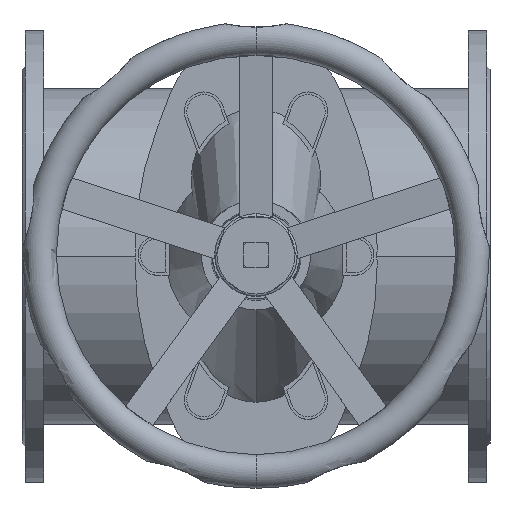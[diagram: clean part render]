
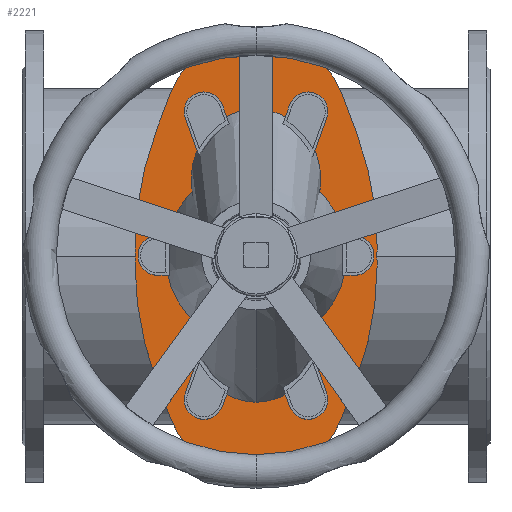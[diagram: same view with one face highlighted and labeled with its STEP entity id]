
A CAD part, top view. The second image highlights one B-rep face of the part: STEP entity #2221.
In plain terms, the highlighted planar face has unit normal (0, 0, 1).
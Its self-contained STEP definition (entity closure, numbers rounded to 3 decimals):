
#2221=ADVANCED_FACE('',(#4247),#4248,.T.);
#4247=FACE_OUTER_BOUND('',#6508,.T.);
#4248=PLANE('',#6509);
#6508=EDGE_LOOP('',(#11169,#11170,#11171,#11172,#11173,#11174,#11175,#11176,#11177,#11178,#11179,#11180,#11181,#11182));
#6509=AXIS2_PLACEMENT_3D('',#11183,#11184,#11185);
#11169=ORIENTED_EDGE('',*,*,#13937,.F.);
#11170=ORIENTED_EDGE('',*,*,#13938,.F.);
#11171=ORIENTED_EDGE('',*,*,#12906,.F.);
#11172=ORIENTED_EDGE('',*,*,#13790,.F.);
#11173=ORIENTED_EDGE('',*,*,#13463,.F.);
#11174=ORIENTED_EDGE('',*,*,#12697,.F.);
#11175=ORIENTED_EDGE('',*,*,#12717,.F.);
#11176=ORIENTED_EDGE('',*,*,#13443,.F.);
#11177=ORIENTED_EDGE('',*,*,#13895,.F.);
#11178=ORIENTED_EDGE('',*,*,#13614,.F.);
#11179=ORIENTED_EDGE('',*,*,#12157,.F.);
#11180=ORIENTED_EDGE('',*,*,#13671,.F.);
#11181=ORIENTED_EDGE('',*,*,#12049,.F.);
#11182=ORIENTED_EDGE('',*,*,#12996,.F.);
#11183=CARTESIAN_POINT('',(300.078,0.,504.0));
#11184=DIRECTION('',(0.0,0.0,1.0));
#11185=DIRECTION('',(1.0,0.0,0.0));
#12049=EDGE_CURVE('',#14094,#14097,#14098,.T.);
#12157=EDGE_CURVE('',#14287,#14290,#14291,.T.);
#12697=EDGE_CURVE('',#15204,#15206,#15207,.T.);
#12717=EDGE_CURVE('',#15230,#15204,#15232,.T.);
#12906=EDGE_CURVE('',#15539,#15540,#15541,.T.);
#12996=EDGE_CURVE('',#15678,#14094,#15680,.T.);
#13443=EDGE_CURVE('',#16301,#15230,#16302,.T.);
#13463=EDGE_CURVE('',#15206,#16324,#16326,.T.);
#13614=EDGE_CURVE('',#14290,#16521,#16522,.T.);
#13671=EDGE_CURVE('',#14097,#14287,#16587,.T.);
#13790=EDGE_CURVE('',#16324,#15539,#16741,.T.);
#13895=EDGE_CURVE('',#16521,#16301,#16865,.T.);
#13937=EDGE_CURVE('',#16915,#15678,#16916,.T.);
#13938=EDGE_CURVE('',#15540,#16915,#16917,.T.);
#14094=VERTEX_POINT('',#17077);
#14097=VERTEX_POINT('',#17081);
#14098=CIRCLE('',#17082,427.473);
#14287=VERTEX_POINT('',#17324);
#14290=VERTEX_POINT('',#17328);
#14291=CIRCLE('',#17329,427.473);
#15204=VERTEX_POINT('',#18511);
#15206=VERTEX_POINT('',#18514);
#15207=CIRCLE('',#18515,408.709);
#15230=VERTEX_POINT('',#18544);
#15232=CIRCLE('',#18547,408.709);
#15539=VERTEX_POINT('',#18938);
#15540=VERTEX_POINT('',#18939);
#15541=LINE('',#18940,#18941);
#15678=VERTEX_POINT('',#19118);
#15680=CIRCLE('',#19121,427.473);
#16301=VERTEX_POINT('',#20175);
#16302=LINE('',#20176,#20177);
#16324=VERTEX_POINT('',#20206);
#16326=CIRCLE('',#20209,408.709);
#16521=VERTEX_POINT('',#20464);
#16522=LINE('',#20465,#20466);
#16587=CIRCLE('',#20552,427.473);
#16741=CIRCLE('',#20739,408.709);
#16865=CIRCLE('',#20898,117.466);
#16915=VERTEX_POINT('',#20956);
#16916=LINE('',#20957,#20958);
#16917=CIRCLE('',#20959,117.466);
#17077=CARTESIAN_POINT('',(144.881,-10.079,504.0));
#17081=CARTESIAN_POINT('',(145.,0.,504.0));
#17082=AXIS2_PLACEMENT_3D('',#21148,#21149,#21150);
#17324=CARTESIAN_POINT('',(144.881,10.079,504.0));
#17328=CARTESIAN_POINT('',(172.378,160.917,504.0));
#17329=AXIS2_PLACEMENT_3D('',#21295,#21296,#21297);
#18511=CARTESIAN_POINT('',(455.216,13.287,504.0));
#18514=CARTESIAN_POINT('',(455.,0.,504.0));
#18515=AXIS2_PLACEMENT_3D('',#22094,#22095,#22096);
#18544=CARTESIAN_POINT('',(428.882,157.621,504.0));
#18547=AXIS2_PLACEMENT_3D('',#22122,#22123,#22124);
#18938=CARTESIAN_POINT('',(428.882,-157.621,504.0));
#18939=CARTESIAN_POINT('',(409.91,-207.883,504.0));
#18940=CARTESIAN_POINT('',(409.91,-207.883,504.0));
#18941=VECTOR('',#22404,1.0);
#19118=CARTESIAN_POINT('',(172.378,-160.917,504.0));
#19121=AXIS2_PLACEMENT_3D('',#22524,#22525,#22526);
#20175=CARTESIAN_POINT('',(409.91,207.883,504.0));
#20176=CARTESIAN_POINT('',(428.882,157.621,504.0));
#20177=VECTOR('',#23083,1.0);
#20206=CARTESIAN_POINT('',(455.216,-13.287,504.0));
#20209=AXIS2_PLACEMENT_3D('',#23104,#23105,#23106);
#20464=CARTESIAN_POINT('',(190.09,207.883,504.0));
#20465=CARTESIAN_POINT('',(190.09,207.883,504.0));
#20466=VECTOR('',#23269,1.0);
#20552=AXIS2_PLACEMENT_3D('',#23330,#23331,#23332);
#20739=AXIS2_PLACEMENT_3D('',#23504,#23505,#23506);
#20898=AXIS2_PLACEMENT_3D('',#23611,#23612,#23613);
#20956=CARTESIAN_POINT('',(190.09,-207.883,504.0));
#20957=CARTESIAN_POINT('',(172.378,-160.917,504.0));
#20958=VECTOR('',#23670,1.0);
#20959=AXIS2_PLACEMENT_3D('',#23671,#23672,#23673);
#21148=CARTESIAN_POINT('',(572.355,-10.079,504.0));
#21149=DIRECTION('',(0.0,0.0,-1.0));
#21150=DIRECTION('',(1.0,0.0,0.0));
#21295=CARTESIAN_POINT('',(572.355,10.079,504.0));
#21296=DIRECTION('',(0.0,0.0,-1.0));
#21297=DIRECTION('',(1.0,0.0,0.0));
#22094=CARTESIAN_POINT('',(46.507,13.287,504.0));
#22095=DIRECTION('',(0.0,0.0,-1.0));
#22096=DIRECTION('',(1.0,0.0,0.0));
#22122=CARTESIAN_POINT('',(46.507,13.287,504.0));
#22123=DIRECTION('',(0.0,0.0,-1.0));
#22124=DIRECTION('',(1.0,0.0,0.0));
#22404=DIRECTION('',(-0.353,-0.936,-0.0));
#22524=CARTESIAN_POINT('',(572.355,-10.079,504.0));
#22525=DIRECTION('',(0.0,0.0,-1.0));
#22526=DIRECTION('',(1.0,0.0,0.0));
#23083=DIRECTION('',(0.353,-0.936,0.0));
#23104=CARTESIAN_POINT('',(46.507,-13.287,504.0));
#23105=DIRECTION('',(0.0,0.0,-1.0));
#23106=DIRECTION('',(1.0,0.0,0.0));
#23269=DIRECTION('',(0.353,0.936,0.0));
#23330=CARTESIAN_POINT('',(572.355,10.079,504.0));
#23331=DIRECTION('',(0.0,0.0,-1.0));
#23332=DIRECTION('',(1.0,0.0,0.0));
#23504=CARTESIAN_POINT('',(46.507,-13.287,504.0));
#23505=DIRECTION('',(0.0,0.0,-1.0));
#23506=DIRECTION('',(1.0,0.0,0.0));
#23611=CARTESIAN_POINT('',(300.,166.434,504.0));
#23612=DIRECTION('',(0.0,0.0,-1.0));
#23613=DIRECTION('',(1.0,0.0,0.0));
#23670=DIRECTION('',(-0.353,0.936,0.0));
#23671=CARTESIAN_POINT('',(300.,-166.434,504.0));
#23672=DIRECTION('',(0.0,0.0,-1.0));
#23673=DIRECTION('',(1.0,0.0,0.0));
